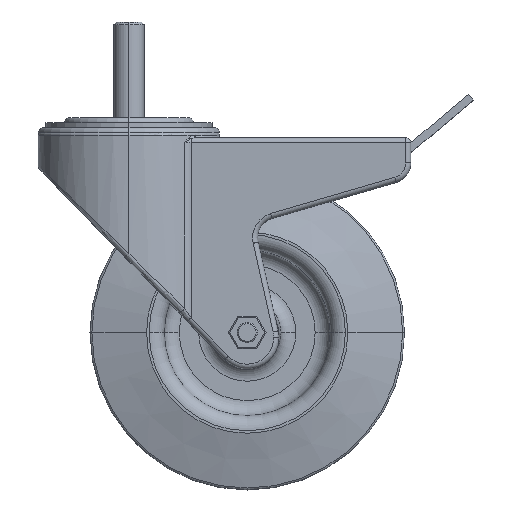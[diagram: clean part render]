
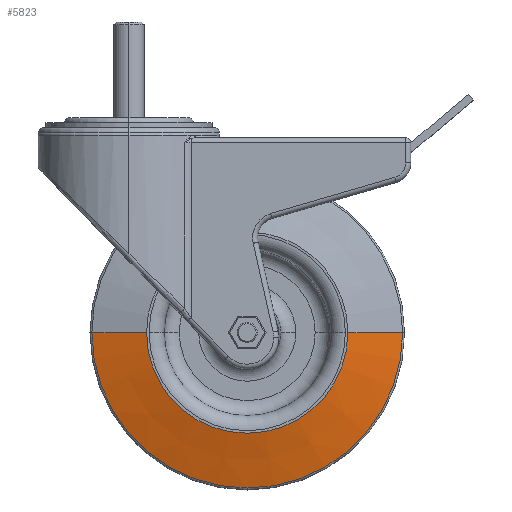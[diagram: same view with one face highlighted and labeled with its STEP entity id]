
A CAD part, top view. The second image highlights one B-rep face of the part: STEP entity #5823.
In plain terms, the highlighted conical face has half-angle 74.525 degrees and reference radius 61.767 mm.
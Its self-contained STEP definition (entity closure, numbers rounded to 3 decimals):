
#45 = ORIENTED_EDGE ( 'NONE', *, *, #1017, .F. ) ;
#207 = CARTESIAN_POINT ( 'NONE',  ( 144.767, -71.442, 48.974 ) ) ;
#630 = CARTESIAN_POINT ( 'NONE',  ( 83., -71.442, 55. ) ) ;
#747 = EDGE_LOOP ( 'NONE', ( #45, #4156, #1471, #6469 ) ) ;
#980 = EDGE_CURVE ( 'NONE', #6951, #1918, #6279, .T. ) ;
#1017 = EDGE_CURVE ( 'NONE', #5401, #2937, #5336, .T. ) ;
#1263 = CARTESIAN_POINT ( 'NONE',  ( 43., -71.442, 55. ) ) ;
#1471 = ORIENTED_EDGE ( 'NONE', *, *, #980, .T. ) ;
#1747 = FACE_OUTER_BOUND ( 'NONE', #747, .T. ) ;
#1787 = DIRECTION ( 'NONE',  ( -0.964, 0., -0.267 ) ) ;
#1852 = DIRECTION ( 'NONE',  ( 0., 0., -1. ) ) ;
#1918 = VERTEX_POINT ( 'NONE', #6818 ) ;
#2364 = CARTESIAN_POINT ( 'NONE',  ( 144.767, -71.442, 48.974 ) ) ;
#2937 = VERTEX_POINT ( 'NONE', #2364 ) ;
#3062 = CONICAL_SURFACE ( 'NONE', #4921, 61.767, 1.301 ) ;
#3096 = EDGE_CURVE ( 'NONE', #1918, #2937, #5914, .T. ) ;
#3102 = DIRECTION ( 'NONE',  ( 0., 0., 1. ) ) ;
#4156 = ORIENTED_EDGE ( 'NONE', *, *, #4200, .F. ) ;
#4200 = EDGE_CURVE ( 'NONE', #6951, #5401, #5477, .T. ) ;
#4462 = DIRECTION ( 'NONE',  ( 1., 0., 0. ) ) ;
#4656 = CARTESIAN_POINT ( 'NONE',  ( 83., -71.442, 48.974 ) ) ;
#4694 = DIRECTION ( 'NONE',  ( 0.964, 0., -0.267 ) ) ;
#4921 = AXIS2_PLACEMENT_3D ( 'NONE', #4656, #1852, #5227 ) ;
#4939 = DIRECTION ( 'NONE',  ( 0., 0., 1. ) ) ;
#5227 = DIRECTION ( 'NONE',  ( -1., 0., 0. ) ) ;
#5277 = CARTESIAN_POINT ( 'NONE',  ( 83., -71.442, 48.974 ) ) ;
#5318 = DIRECTION ( 'NONE',  ( 1., 0., 0. ) ) ;
#5336 = LINE ( 'NONE', #207, #6971 ) ;
#5401 = VERTEX_POINT ( 'NONE', #6447 ) ;
#5477 = CIRCLE ( 'NONE', #6680, 40. ) ;
#5823 = ADVANCED_FACE ( 'NONE', ( #1747 ), #3062, .T. ) ;
#5914 = CIRCLE ( 'NONE', #6049, 61.767 ) ;
#6049 = AXIS2_PLACEMENT_3D ( 'NONE', #5277, #3102, #5318 ) ;
#6187 = VECTOR ( 'NONE', #1787, 1000. ) ;
#6218 = CARTESIAN_POINT ( 'NONE',  ( 21.233, -71.442, 48.974 ) ) ;
#6279 = LINE ( 'NONE', #6218, #6187 ) ;
#6447 = CARTESIAN_POINT ( 'NONE',  ( 123., -71.442, 55. ) ) ;
#6469 = ORIENTED_EDGE ( 'NONE', *, *, #3096, .T. ) ;
#6680 = AXIS2_PLACEMENT_3D ( 'NONE', #630, #4939, #4462 ) ;
#6818 = CARTESIAN_POINT ( 'NONE',  ( 21.233, -71.442, 48.974 ) ) ;
#6951 = VERTEX_POINT ( 'NONE', #1263 ) ;
#6971 = VECTOR ( 'NONE', #4694, 1000. ) ;
